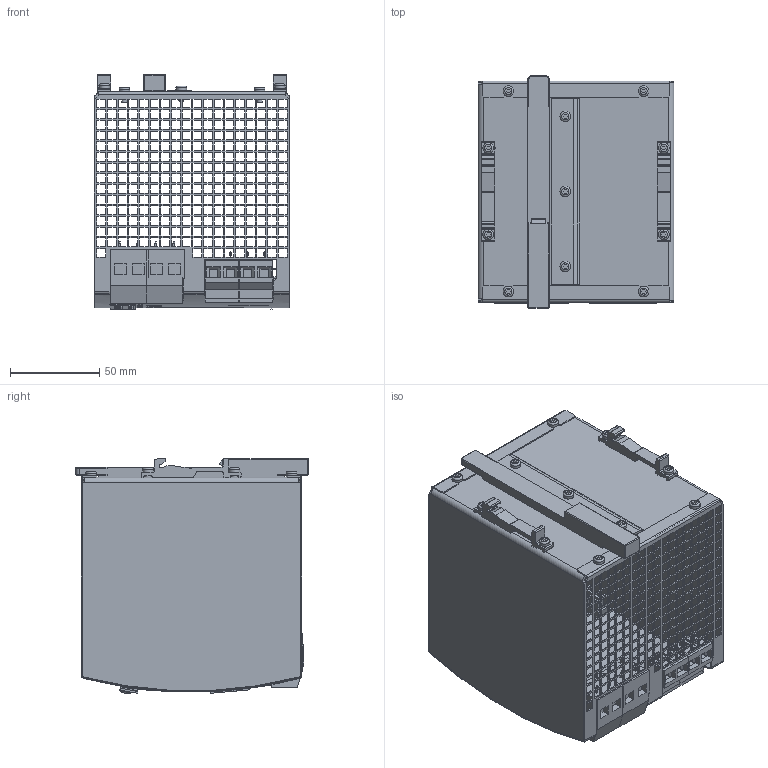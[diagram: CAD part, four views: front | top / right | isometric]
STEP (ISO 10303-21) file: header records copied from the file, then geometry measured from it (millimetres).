
FILE_DESCRIPTION(/* description */ (''),/* implementation_level */ '2;1');
FILE_NAME(/* name */ 'L:\MKT-GER\Neue Webdokumente\Daten von KO\Internet\md3_qt40_242.stp',/* time_stamp */ '2018-10-29T06:54:40+01:00',/* author */ ('rahns'),/* organization */ (''),/* preprocessor_version */ 'ST-DEVELOPER v17',/* originating_system */ 'Autodesk Inventor 2018',/* authorisation */ '370443,1 mm^3');
FILE_SCHEMA (('AUTOMOTIVE_DESIGN { 1 0 10303 214 3 1 1 }'));
Products named in the file (16): 374.01; HOUSING COVER 374.00; HOUSING BODY L 374.00; HOUSING BODY R 374.00; TERMINAL 2POL R10,16 SCREW; MKT_LP4SW-R3; MKT_JUMPER BRACKET; MKT_JUMPER; TERMINAL 2P R9,52 BK; MKT_SLIDER; MKT_T HOLDER1; MKT_SCREW 3x6; MKT_POTI COVER; MKT_LED RD; MKT_LED GN; FRONTFOIL 374.03
Assembly tree (28 placements, depth 2):
  374.01
    HOUSING COVER 374.00
    HOUSING BODY L 374.00
    HOUSING BODY R 374.00
    TERMINAL 2POL R10,16 SCREW  x2
    MKT_LP4SW-R3
    MKT_JUMPER BRACKET
    MKT_JUMPER
    TERMINAL 2P R9,52 BK  x2
    MKT_SCREW 3x6  x11
    MKT_T HOLDER1  x2
    MKT_SLIDER
    MKT_POTI COVER
    MKT_LED RD
    MKT_LED GN
    FRONTFOIL 374.03
Bounding box: 110 x 130.5 x 132.07 mm (x, y, z)
Volume: 129767.4 mm3; surface area: 192170.4 mm2
Topology: 29 solids, 29 shells, 4689 faces, 13124 edges, 8713 vertices
Faces by surface type: plane 3669, bspline 600, cylinder 359, cone 25, torus 24, sphere 12
Full cylindrical faces by diameter (mm): 0.05 x4, 0.8 x8, 1 x2, 2.45 x5, 3 x11, 3.1 x4, 3.2 x6, 4.355 x1, 4.5 x4, 4.6 x2, 5.15 x4, 5.5 x4, 6 x11
Entity records: 276000 total; most frequent: CARTESIAN_POINT 166129, ORIENTED_EDGE 24150, DIRECTION 18510, EDGE_CURVE 12075, LINE 9874, VECTOR 9874, VERTEX_POINT 8013, EDGE_LOOP 5660
